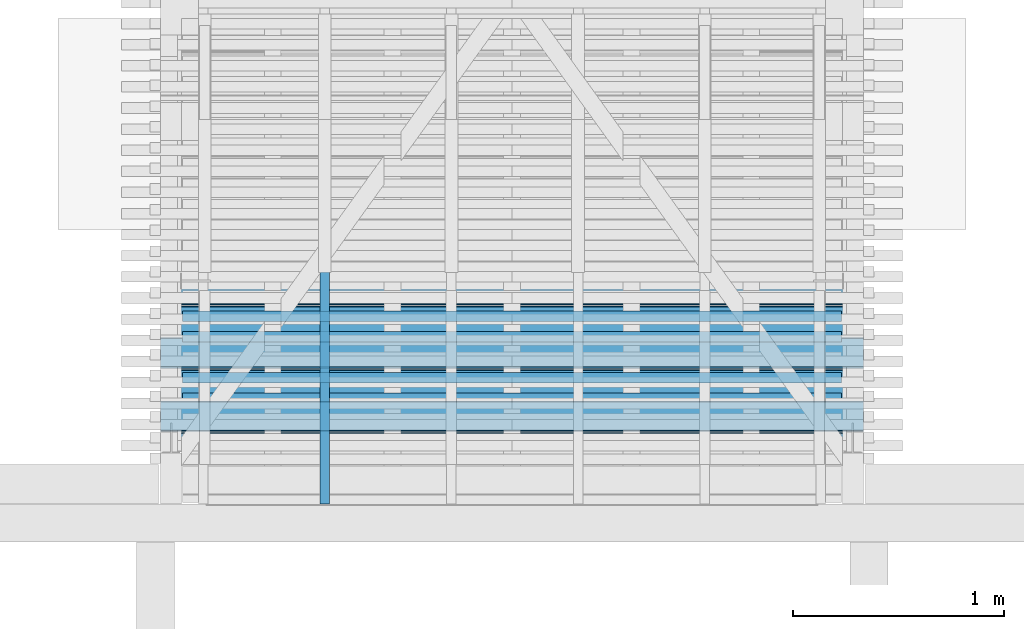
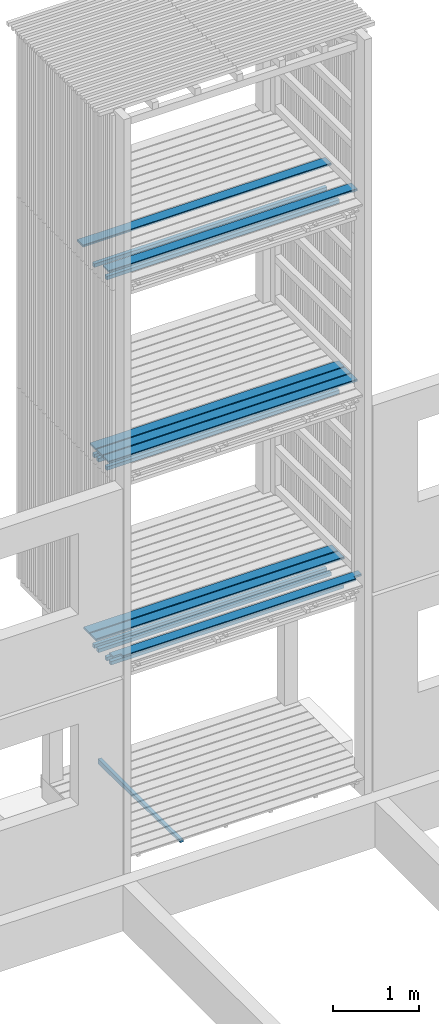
# One storey, part 36 of 182: 18 beams.
"""IFC2X3 building model written with IfcOpenShell, lengths in metres."""

from ifc_helpers import new_model, si_unit, frame, origin, place, context, project, spatial, faceted_brep, element, save


model = new_model("IFC2X3")

# Units and contexts
model_context = context("Model", 3, precision=1e-06, world=origin())
ifc_project = project(units=[si_unit("LENGTHUNIT", "METRE"), si_unit("PLANEANGLEUNIT", "RADIAN")], contexts=[model_context])

# Site, building, storey
site = spatial("IfcSite", under=ifc_project, CompositionType="ELEMENT")
building = spatial("IfcBuilding", under=site, CompositionType="ELEMENT")
storey = spatial("IfcBuildingStorey", under=building, Name="vs", CompositionType="ELEMENT", Elevation=-0.85)

# Beams
placement = place(None, origin())
beam_1_placement = place(placement, frame((16.654197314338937, 10.734577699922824, 2.733499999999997), z_axis=(0.0, 0.0, 1.0), x_axis=(-1.0, 0.0, 0.0)))
element("IfcBeam", 1, at=beam_1_placement, inside=storey, Name="Caillebotis", context=model_context, shape_type="Brep", body=[
    faceted_brep([(0.0, -0.072499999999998, -0.0135), (0.0, -0.072499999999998, 0.008500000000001), (0.0, -0.067499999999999, 0.0135), (0.0, 0.019500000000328, 0.0135), (0.0, 0.019500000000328, -0.0135), (3.329999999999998, -0.067499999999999, 0.0135), (3.329999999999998, 0.019500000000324, 0.0135), (3.225000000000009, 0.019500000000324, 0.0135), (3.225000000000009, 0.067500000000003, 0.0135), (0.105000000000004, 0.067500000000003, 0.0135), (0.105000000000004, 0.019500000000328, 0.0135), (0.0, 0.019500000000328, 0.0135), (0.0, -0.067499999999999, 0.0135), (0.105000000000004, 0.019500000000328, 0.0135), (0.105000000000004, 0.067500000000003, 0.0135), (0.105000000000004, 0.072500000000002, 0.0085), (0.105000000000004, 0.072500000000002, -0.0135), (0.105000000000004, 0.019500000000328, -0.0135), (0.105000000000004, 0.072500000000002, 0.0085), (0.105000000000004, 0.067500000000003, 0.0135), (3.225000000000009, 0.067500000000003, 0.0135), (3.225000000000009, 0.072500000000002, 0.0085), (0.105000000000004, 0.072500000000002, -0.0135), (0.105000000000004, 0.072500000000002, 0.0085), (3.225000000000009, 0.072500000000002, 0.0085), (3.225000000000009, 0.072500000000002, -0.0135), (3.225000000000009, 0.072500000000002, -0.0135), (3.225000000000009, 0.072500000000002, 0.0085), (3.225000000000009, 0.067500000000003, 0.0135), (3.225000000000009, 0.019500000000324, 0.0135), (3.225000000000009, 0.019500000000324, -0.0135), (3.225000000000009, 0.019500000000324, -0.0135), (3.225000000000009, 0.019500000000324, 0.0135), (3.329999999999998, 0.019500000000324, 0.0135), (3.329999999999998, 0.019500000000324, -0.0135), (3.329999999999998, -0.072499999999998, 0.008500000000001), (3.329999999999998, -0.072499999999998, -0.0135), (3.329999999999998, 0.019500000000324, -0.0135), (3.329999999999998, 0.019500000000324, 0.0135), (3.329999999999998, -0.067499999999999, 0.0135), (3.329999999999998, -0.072499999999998, 0.008500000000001), (3.329999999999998, -0.067499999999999, 0.0135), (0.0, -0.067499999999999, 0.0135), (0.0, -0.072499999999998, 0.008500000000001), (3.329999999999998, -0.072499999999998, -0.0135), (3.329999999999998, -0.072499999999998, 0.008500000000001), (0.0, -0.072499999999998, 0.008500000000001), (0.0, -0.072499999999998, -0.0135), (0.105000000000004, 0.019500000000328, -0.0135), (0.105000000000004, 0.072500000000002, -0.0135), (3.225000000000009, 0.072500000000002, -0.0135), (3.225000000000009, 0.019500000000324, -0.0135), (3.329999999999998, 0.019500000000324, -0.0135), (3.329999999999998, -0.072499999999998, -0.0135), (0.0, -0.072499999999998, -0.0135), (0.0, 0.019500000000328, -0.0135), (0.0, 0.019500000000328, 0.0135), (0.105000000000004, 0.019500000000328, 0.0135), (0.105000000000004, 0.019500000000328, -0.0135), (0.0, 0.019500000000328, -0.0135)], [[[0, 1, 2, 3, 4]], [[5, 6, 7, 8, 9, 10, 11, 12]], [[13, 14, 15, 16, 17]], [[18, 19, 20, 21]], [[22, 23, 24, 25]], [[26, 27, 28, 29, 30]], [[31, 32, 33, 34]], [[35, 36, 37, 38, 39]], [[40, 41, 42, 43]], [[44, 45, 46, 47]], [[48, 49, 50, 51, 52, 53, 54, 55]], [[56, 57, 58, 59]]]),
])
beam_2_placement = place(placement, frame((16.654197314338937, 11.484577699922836, 8.13349999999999), z_axis=(0.0, 0.0, 1.0), x_axis=(-1.0, -8e-15, 0.0)))
element("IfcBeam", 2, at=beam_2_placement, inside=storey, Name="Caillebotis", context=model_context, shape_type="Brep", body=[
    faceted_brep([(3.329999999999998, -0.072500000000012, -0.013500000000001), (3.329999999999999, 0.072499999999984, -0.013500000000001), (3.329999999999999, 0.072499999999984, 0.008499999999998), (3.329999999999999, 0.067499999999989, 0.013499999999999), (3.329999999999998, -0.067500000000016, 0.013499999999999), (3.329999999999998, -0.072500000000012, 0.0085), (-1e-15, -0.072499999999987, 0.0085), (-1e-15, -0.067499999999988, 0.013499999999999), (1e-15, 0.067500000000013, 0.013499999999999), (1e-15, 0.072500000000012, 0.008499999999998), (1e-15, 0.072500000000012, -0.013500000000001), (-1e-15, -0.072499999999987, -0.013500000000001), (3.329999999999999, 0.072499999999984, 0.008499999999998), (3.329999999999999, 0.072499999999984, -0.013500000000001), (1e-15, 0.072500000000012, -0.013500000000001), (1e-15, 0.072500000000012, 0.008499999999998), (3.329999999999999, 0.067499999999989, 0.013499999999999), (3.329999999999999, 0.072499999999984, 0.008499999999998), (1e-15, 0.072500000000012, 0.008499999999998), (1e-15, 0.067500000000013, 0.013499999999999), (3.329999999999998, -0.067500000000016, 0.013499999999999), (3.329999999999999, 0.067499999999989, 0.013499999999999), (1e-15, 0.067500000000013, 0.013499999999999), (-1e-15, -0.067499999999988, 0.013499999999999), (3.329999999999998, -0.072500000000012, 0.0085), (3.329999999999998, -0.067500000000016, 0.013499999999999), (-1e-15, -0.067499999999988, 0.013499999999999), (-1e-15, -0.072499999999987, 0.0085), (3.329999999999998, -0.072500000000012, -0.013500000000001), (3.329999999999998, -0.072500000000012, 0.0085), (-1e-15, -0.072499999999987, 0.0085), (-1e-15, -0.072499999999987, -0.013500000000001), (1e-15, 0.072500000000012, -0.013500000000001), (3.329999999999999, 0.072499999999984, -0.013500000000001), (3.329999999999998, -0.072500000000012, -0.013500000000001), (-1e-15, -0.072499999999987, -0.013500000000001)], [[[0, 1, 2, 3, 4, 5]], [[6, 7, 8, 9, 10, 11]], [[12, 13, 14, 15]], [[16, 17, 18, 19]], [[20, 21, 22, 23]], [[24, 25, 26, 27]], [[28, 29, 30, 31]], [[32, 33, 34, 35]]]),
])
beam_3_placement = place(placement, frame((14.102197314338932, 10.4700776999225, -0.015599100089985), z_axis=(0.0, 0.0, 1.0), x_axis=(0.0, 1.0, 0.0)))
element("IfcBeam", 3, at=beam_3_placement, inside=storey, Name="Calage", context=model_context, shape_type="Brep", body=[
    faceted_brep([(0.0, 0.022499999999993, 0.002600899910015), (1.91000000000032, 0.022499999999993, -0.035599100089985), (1.91000000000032, -0.022500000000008, -0.035599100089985), (0.0, -0.022500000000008, 0.002600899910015), (0.0, -0.022500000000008, 0.035599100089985), (0.0, 0.022499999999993, 0.035599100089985), (0.0, 0.022499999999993, 0.002600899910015), (0.0, -0.022500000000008, 0.002600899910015), (0.0, 0.022499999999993, 0.035599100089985), (0.0, -0.022500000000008, 0.035599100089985), (1.91000000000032, -0.022500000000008, 0.035599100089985), (1.91000000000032, 0.022499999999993, 0.035599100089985), (0.0, 0.022499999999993, 0.002600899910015), (0.0, 0.022499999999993, 0.035599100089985), (1.91000000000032, 0.022499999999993, 0.035599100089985), (1.91000000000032, 0.022499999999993, -0.035599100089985), (1.91000000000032, 0.022499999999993, -0.035599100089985), (1.91000000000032, 0.022499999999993, 0.035599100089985), (1.91000000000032, -0.022500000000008, 0.035599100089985), (1.91000000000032, -0.022500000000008, -0.035599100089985), (1.91000000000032, -0.022500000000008, -0.035599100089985), (1.91000000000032, -0.022500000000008, 0.035599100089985), (0.0, -0.022500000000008, 0.035599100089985), (0.0, -0.022500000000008, 0.002600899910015)], [[[0, 1, 2, 3]], [[4, 5, 6, 7]], [[8, 9, 10, 11]], [[12, 13, 14, 15]], [[16, 17, 18, 19]], [[20, 21, 22, 23]]]),
])
beam_4_placement = place(placement, frame((16.549197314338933, 11.261327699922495, 5.167999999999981), z_axis=(0.0, 0.0, 1.0), x_axis=(-1.0, 0.0, 0.0)))
element("IfcBeam", 4, at=beam_4_placement, inside=storey, Name="Bardage", context=model_context, shape_type="Brep", body=[
    faceted_brep([(3.120000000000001, 0.024999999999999, -0.025), (3.120000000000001, -0.024999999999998, -0.025), (-3e-15, -0.025000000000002, -0.025), (-3e-15, 0.024999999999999, -0.025), (-3e-15, -0.025000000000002, -0.025), (3.120000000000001, -0.024999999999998, -0.025), (3.120000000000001, -0.024999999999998, 0.025000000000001), (-3e-15, -0.025000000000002, 0.025000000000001), (3.120000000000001, -0.024999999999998, -0.025), (3.120000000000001, 0.024999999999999, -0.025), (3.120000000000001, 0.024999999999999, 0.025000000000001), (3.120000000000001, -0.024999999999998, 0.025000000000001), (3.120000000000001, 0.024999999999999, 0.025000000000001), (3.120000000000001, 0.024999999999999, -0.025), (-3e-15, 0.024999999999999, -0.025), (-3e-15, 0.024999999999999, 0.025000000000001), (-3e-15, -0.025000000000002, 0.025000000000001), (3.120000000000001, -0.024999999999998, 0.025000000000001), (3.120000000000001, 0.024999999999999, 0.025000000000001), (-3e-15, 0.024999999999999, 0.025000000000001), (-3e-15, -0.025000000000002, -0.025), (-3e-15, -0.025000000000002, 0.025000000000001), (-3e-15, 0.024999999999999, 0.025000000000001), (-3e-15, 0.024999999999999, -0.025)], [[[0, 1, 2, 3]], [[4, 5, 6, 7]], [[8, 9, 10, 11]], [[12, 13, 14, 15]], [[16, 17, 18, 19]], [[20, 21, 22, 23]]]),
])
beam_5_placement = place(placement, frame((16.549197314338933, 11.067577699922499, 2.467999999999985), z_axis=(0.0, 0.0, 1.0), x_axis=(-1.0, -1e-15, 0.0)))
element("IfcBeam", 5, at=beam_5_placement, inside=storey, Name="Bardage", context=model_context, shape_type="Brep", body=[
    faceted_brep([(3.120000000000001, 0.025000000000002, -0.025), (3.120000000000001, -0.025000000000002, -0.025), (-3e-15, -0.024999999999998, -0.025), (-3e-15, 0.025000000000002, -0.025), (-3e-15, -0.024999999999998, -0.025), (3.120000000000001, -0.025000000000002, -0.025), (3.120000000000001, -0.025000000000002, 0.025), (-3e-15, -0.024999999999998, 0.025), (3.120000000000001, -0.025000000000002, -0.025), (3.120000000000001, 0.025000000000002, -0.025), (3.120000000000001, 0.025000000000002, 0.025), (3.120000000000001, -0.025000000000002, 0.025), (3.120000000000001, 0.025000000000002, 0.025), (3.120000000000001, 0.025000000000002, -0.025), (-3e-15, 0.025000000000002, -0.025), (-3e-15, 0.025000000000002, 0.025), (-3e-15, -0.024999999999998, 0.025), (3.120000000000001, -0.025000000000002, 0.025), (3.120000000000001, 0.025000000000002, 0.025), (-3e-15, 0.025000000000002, 0.025), (-3e-15, -0.024999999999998, -0.025), (-3e-15, -0.024999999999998, 0.025), (-3e-15, 0.025000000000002, 0.025), (-3e-15, 0.025000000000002, -0.025)], [[[0, 1, 2, 3]], [[4, 5, 6, 7]], [[8, 9, 10, 11]], [[12, 13, 14, 15]], [[16, 17, 18, 19]], [[20, 21, 22, 23]]]),
])
beam_6_placement = place(placement, frame((16.549197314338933, 11.067577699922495, 5.167999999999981), z_axis=(0.0, 0.0, 1.0), x_axis=(-1.0, 0.0, 0.0)))
element("IfcBeam", 6, at=beam_6_placement, inside=storey, Name="Bardage", context=model_context, shape_type="Brep", body=[
    faceted_brep([(3.120000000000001, 0.025000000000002, -0.025), (3.120000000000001, -0.025000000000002, -0.025), (-3e-15, -0.025000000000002, -0.025), (-3e-15, 0.024999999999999, -0.025), (-3e-15, -0.025000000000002, -0.025), (3.120000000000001, -0.025000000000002, -0.025), (3.120000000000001, -0.025000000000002, 0.025000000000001), (-3e-15, -0.025000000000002, 0.025000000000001), (3.120000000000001, -0.025000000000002, -0.025), (3.120000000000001, 0.025000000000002, -0.025), (3.120000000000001, 0.025000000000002, 0.025000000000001), (3.120000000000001, -0.025000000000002, 0.025000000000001), (3.120000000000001, 0.025000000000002, 0.025000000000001), (3.120000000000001, 0.025000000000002, -0.025), (-3e-15, 0.024999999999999, -0.025), (-3e-15, 0.024999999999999, 0.025000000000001), (-3e-15, -0.025000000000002, 0.025000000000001), (3.120000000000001, -0.025000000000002, 0.025000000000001), (3.120000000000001, 0.025000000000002, 0.025000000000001), (-3e-15, 0.024999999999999, 0.025000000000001), (-3e-15, -0.025000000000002, -0.025), (-3e-15, -0.025000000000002, 0.025000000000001), (-3e-15, 0.024999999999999, 0.025000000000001), (-3e-15, 0.024999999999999, -0.025)], [[[0, 1, 2, 3]], [[4, 5, 6, 7]], [[8, 9, 10, 11]], [[12, 13, 14, 15]], [[16, 17, 18, 19]], [[20, 21, 22, 23]]]),
])
beam_7_placement = place(placement, frame((16.549197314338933, 10.970702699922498, 2.467999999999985), z_axis=(0.0, 0.0, 1.0), x_axis=(-1.0, -1e-15, 0.0)))
element("IfcBeam", 7, at=beam_7_placement, inside=storey, Name="Bardage", context=model_context, shape_type="Brep", body=[
    faceted_brep([(3.120000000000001, 0.024999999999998, -0.025), (3.120000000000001, -0.025000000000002, -0.025), (-3e-15, -0.024999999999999, -0.025), (-3e-15, 0.025000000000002, -0.025), (-3e-15, -0.024999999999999, -0.025), (3.120000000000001, -0.025000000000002, -0.025), (3.120000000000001, -0.025000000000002, 0.025), (-3e-15, -0.024999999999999, 0.025), (3.120000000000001, -0.025000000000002, -0.025), (3.120000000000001, 0.024999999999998, -0.025), (3.120000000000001, 0.024999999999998, 0.025), (3.120000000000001, -0.025000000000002, 0.025), (3.120000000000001, 0.024999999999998, 0.025), (3.120000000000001, 0.024999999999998, -0.025), (-3e-15, 0.025000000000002, -0.025), (-3e-15, 0.025000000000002, 0.025), (-3e-15, -0.024999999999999, 0.025), (3.120000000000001, -0.025000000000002, 0.025), (3.120000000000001, 0.024999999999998, 0.025), (-3e-15, 0.025000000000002, 0.025), (-3e-15, -0.024999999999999, -0.025), (-3e-15, -0.024999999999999, 0.025), (-3e-15, 0.025000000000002, 0.025), (-3e-15, 0.025000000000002, -0.025)], [[[0, 1, 2, 3]], [[4, 5, 6, 7]], [[8, 9, 10, 11]], [[12, 13, 14, 15]], [[16, 17, 18, 19]], [[20, 21, 22, 23]]]),
])
beam_8_placement = place(placement, frame((16.549197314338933, 11.358202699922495, 7.867999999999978), z_axis=(0.0, 0.0, 1.0), x_axis=(-1.0, -1e-15, 0.0)))
element("IfcBeam", 8, at=beam_8_placement, inside=storey, Name="Bardage", context=model_context, shape_type="Brep", body=[
    faceted_brep([(3.120000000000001, 0.024999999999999, -0.025000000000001), (3.120000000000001, -0.025000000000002, -0.025000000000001), (-3e-15, -0.025000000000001, -0.025000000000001), (-3e-15, 0.025000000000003, -0.025000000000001), (-3e-15, -0.025000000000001, -0.025000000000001), (3.120000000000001, -0.025000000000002, -0.025000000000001), (3.120000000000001, -0.025000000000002, 0.024999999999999), (-3e-15, -0.025000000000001, 0.024999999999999), (3.120000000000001, -0.025000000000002, -0.025000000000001), (3.120000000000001, 0.024999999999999, -0.025000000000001), (3.120000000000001, 0.024999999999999, 0.024999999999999), (3.120000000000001, -0.025000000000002, 0.024999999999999), (3.120000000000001, 0.024999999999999, 0.024999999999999), (3.120000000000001, 0.024999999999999, -0.025000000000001), (-3e-15, 0.025000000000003, -0.025000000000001), (-3e-15, 0.025000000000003, 0.024999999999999), (-3e-15, -0.025000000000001, 0.024999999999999), (3.120000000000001, -0.025000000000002, 0.024999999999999), (3.120000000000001, 0.024999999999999, 0.024999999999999), (-3e-15, 0.025000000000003, 0.024999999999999), (-3e-15, -0.025000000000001, -0.025000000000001), (-3e-15, -0.025000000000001, 0.024999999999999), (-3e-15, 0.025000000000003, 0.024999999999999), (-3e-15, 0.025000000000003, -0.025000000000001)], [[[0, 1, 2, 3]], [[4, 5, 6, 7]], [[8, 9, 10, 11]], [[12, 13, 14, 15]], [[16, 17, 18, 19]], [[20, 21, 22, 23]]]),
])
beam_9_placement = place(placement, frame((16.549197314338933, 11.358202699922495, 5.167999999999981), z_axis=(0.0, 0.0, 1.0), x_axis=(-1.0, -1e-15, 0.0)))
element("IfcBeam", 9, at=beam_9_placement, inside=storey, Name="Bardage", context=model_context, shape_type="Brep", body=[
    faceted_brep([(3.120000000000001, 0.024999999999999, -0.025), (3.120000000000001, -0.025000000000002, -0.025), (-3e-15, -0.025000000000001, -0.025), (-3e-15, 0.025000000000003, -0.025), (-3e-15, -0.025000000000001, -0.025), (3.120000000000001, -0.025000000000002, -0.025), (3.120000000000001, -0.025000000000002, 0.025000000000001), (-3e-15, -0.025000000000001, 0.025000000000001), (3.120000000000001, -0.025000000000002, -0.025), (3.120000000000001, 0.024999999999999, -0.025), (3.120000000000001, 0.024999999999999, 0.025000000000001), (3.120000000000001, -0.025000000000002, 0.025000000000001), (3.120000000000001, 0.024999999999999, 0.025000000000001), (3.120000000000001, 0.024999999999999, -0.025), (-3e-15, 0.025000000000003, -0.025), (-3e-15, 0.025000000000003, 0.025000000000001), (-3e-15, -0.025000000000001, 0.025000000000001), (3.120000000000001, -0.025000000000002, 0.025000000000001), (3.120000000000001, 0.024999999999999, 0.025000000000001), (-3e-15, 0.025000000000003, 0.025000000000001), (-3e-15, -0.025000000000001, -0.025), (-3e-15, -0.025000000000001, 0.025000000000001), (-3e-15, 0.025000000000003, 0.025000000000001), (-3e-15, 0.025000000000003, -0.025)], [[[0, 1, 2, 3]], [[4, 5, 6, 7]], [[8, 9, 10, 11]], [[12, 13, 14, 15]], [[16, 17, 18, 19]], [[20, 21, 22, 23]]]),
])
beam_10_placement = place(placement, frame((16.549197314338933, 11.358202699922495, 2.467999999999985), z_axis=(0.0, 0.0, 1.0), x_axis=(-1.0, -1e-15, 0.0)))
element("IfcBeam", 10, at=beam_10_placement, inside=storey, Name="Bardage", context=model_context, shape_type="Brep", body=[
    faceted_brep([(3.120000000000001, 0.024999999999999, -0.025), (3.120000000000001, -0.025000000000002, -0.025), (-3e-15, -0.025000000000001, -0.025), (-3e-15, 0.025000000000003, -0.025), (-3e-15, -0.025000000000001, -0.025), (3.120000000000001, -0.025000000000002, -0.025), (3.120000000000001, -0.025000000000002, 0.025), (-3e-15, -0.025000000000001, 0.025), (3.120000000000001, -0.025000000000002, -0.025), (3.120000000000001, 0.024999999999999, -0.025), (3.120000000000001, 0.024999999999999, 0.025), (3.120000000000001, -0.025000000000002, 0.025), (3.120000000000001, 0.024999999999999, 0.025), (3.120000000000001, 0.024999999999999, -0.025), (-3e-15, 0.025000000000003, -0.025), (-3e-15, 0.025000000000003, 0.025), (-3e-15, -0.025000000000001, 0.025), (3.120000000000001, -0.025000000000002, 0.025), (3.120000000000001, 0.024999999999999, 0.025), (-3e-15, 0.025000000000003, 0.025), (-3e-15, -0.025000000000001, -0.025), (-3e-15, -0.025000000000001, 0.025), (-3e-15, 0.025000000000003, 0.025), (-3e-15, 0.025000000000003, -0.025)], [[[0, 1, 2, 3]], [[4, 5, 6, 7]], [[8, 9, 10, 11]], [[12, 13, 14, 15]], [[16, 17, 18, 19]], [[20, 21, 22, 23]]]),
])
beam_11_placement = place(placement, frame((16.549197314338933, 11.261327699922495, 2.467999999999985), z_axis=(0.0, 0.0, 1.0), x_axis=(-1.0, 0.0, 0.0)))
element("IfcBeam", 11, at=beam_11_placement, inside=storey, Name="Bardage", context=model_context, shape_type="Brep", body=[
    faceted_brep([(3.120000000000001, 0.024999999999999, -0.025), (3.120000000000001, -0.024999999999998, -0.025), (-3e-15, -0.025000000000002, -0.025), (-3e-15, 0.024999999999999, -0.025), (-3e-15, -0.025000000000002, -0.025), (3.120000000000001, -0.024999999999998, -0.025), (3.120000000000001, -0.024999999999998, 0.025), (-3e-15, -0.025000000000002, 0.025), (3.120000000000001, -0.024999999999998, -0.025), (3.120000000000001, 0.024999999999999, -0.025), (3.120000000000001, 0.024999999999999, 0.025), (3.120000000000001, -0.024999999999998, 0.025), (3.120000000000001, 0.024999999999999, 0.025), (3.120000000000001, 0.024999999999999, -0.025), (-3e-15, 0.024999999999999, -0.025), (-3e-15, 0.024999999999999, 0.025), (-3e-15, -0.025000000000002, 0.025), (3.120000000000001, -0.024999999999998, 0.025), (3.120000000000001, 0.024999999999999, 0.025), (-3e-15, 0.024999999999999, 0.025), (-3e-15, -0.025000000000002, -0.025), (-3e-15, -0.025000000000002, 0.025), (-3e-15, 0.024999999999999, 0.025), (-3e-15, 0.024999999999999, -0.025)], [[[0, 1, 2, 3]], [[4, 5, 6, 7]], [[8, 9, 10, 11]], [[12, 13, 14, 15]], [[16, 17, 18, 19]], [[20, 21, 22, 23]]]),
])
beam_12_placement = place(placement, frame((16.654197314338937, 11.034577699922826, 5.433499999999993), z_axis=(0.0, 0.0, 1.0), x_axis=(-1.0, -1e-15, 0.0)))
element("IfcBeam", 12, at=beam_12_placement, inside=storey, Name="Caillebotis", context=model_context, shape_type="Brep", body=[
    faceted_brep([(3.329999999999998, -0.072500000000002, -0.0135), (3.329999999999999, 0.072500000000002, -0.0135), (3.329999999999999, 0.072500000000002, 0.0085), (3.329999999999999, 0.067499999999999, 0.0135), (3.329999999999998, -0.067499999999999, 0.0135), (3.329999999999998, -0.072500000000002, 0.008500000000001), (0.0, -0.072499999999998, 0.008500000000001), (0.0, -0.067499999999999, 0.0135), (0.0, 0.067500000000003, 0.0135), (0.0, 0.072500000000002, 0.0085), (0.0, 0.072500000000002, -0.0135), (0.0, -0.072499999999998, -0.0135), (3.329999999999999, 0.072500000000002, 0.0085), (3.329999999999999, 0.072500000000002, -0.0135), (0.0, 0.072500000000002, -0.0135), (0.0, 0.072500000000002, 0.0085), (3.329999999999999, 0.067499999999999, 0.0135), (3.329999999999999, 0.072500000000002, 0.0085), (0.0, 0.072500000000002, 0.0085), (0.0, 0.067500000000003, 0.0135), (3.329999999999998, -0.067499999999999, 0.0135), (3.329999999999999, 0.067499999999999, 0.0135), (0.0, 0.067500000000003, 0.0135), (0.0, -0.067499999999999, 0.0135), (3.329999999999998, -0.072500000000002, 0.008500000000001), (3.329999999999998, -0.067499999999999, 0.0135), (0.0, -0.067499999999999, 0.0135), (0.0, -0.072499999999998, 0.008500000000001), (3.329999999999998, -0.072500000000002, -0.0135), (3.329999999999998, -0.072500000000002, 0.008500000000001), (0.0, -0.072499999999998, 0.008500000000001), (0.0, -0.072499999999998, -0.0135), (0.0, 0.072500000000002, -0.0135), (3.329999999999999, 0.072500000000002, -0.0135), (3.329999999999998, -0.072500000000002, -0.0135), (0.0, -0.072499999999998, -0.0135)], [[[0, 1, 2, 3, 4, 5]], [[6, 7, 8, 9, 10, 11]], [[12, 13, 14, 15]], [[16, 17, 18, 19]], [[20, 21, 22, 23]], [[24, 25, 26, 27]], [[28, 29, 30, 31]], [[32, 33, 34, 35]]]),
])
beam_13_placement = place(placement, frame((16.654197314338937, 11.334577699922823, 2.733499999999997), z_axis=(0.0, 0.0, 1.0), x_axis=(-1.0, 0.0, 0.0)))
element("IfcBeam", 13, at=beam_13_placement, inside=storey, Name="Caillebotis", context=model_context, shape_type="Brep", body=[
    faceted_brep([(3.329999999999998, -0.072499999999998, -0.0135), (3.329999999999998, 0.072500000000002, -0.0135), (3.329999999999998, 0.072500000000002, 0.0085), (3.329999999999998, 0.067500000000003, 0.0135), (3.329999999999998, -0.067500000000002, 0.0135), (3.329999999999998, -0.072499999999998, 0.008500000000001), (0.0, -0.072499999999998, 0.008500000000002), (0.0, -0.067500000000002, 0.0135), (0.0, 0.067499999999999, 0.013500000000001), (0.0, 0.072499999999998, 0.0085), (0.0, 0.072499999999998, -0.0135), (0.0, -0.072499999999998, -0.0135), (3.329999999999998, 0.072500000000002, 0.0085), (3.329999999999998, 0.072500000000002, -0.0135), (0.0, 0.072499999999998, -0.0135), (0.0, 0.072499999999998, 0.0085), (3.329999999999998, 0.067500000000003, 0.0135), (3.329999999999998, 0.072500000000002, 0.0085), (0.0, 0.072499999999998, 0.0085), (0.0, 0.067499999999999, 0.013500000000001), (3.329999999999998, -0.067500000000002, 0.0135), (3.329999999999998, 0.067500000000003, 0.0135), (0.0, 0.067499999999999, 0.013500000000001), (0.0, -0.067500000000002, 0.0135), (3.329999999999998, -0.072499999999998, 0.008500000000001), (3.329999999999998, -0.067500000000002, 0.0135), (0.0, -0.067500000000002, 0.0135), (0.0, -0.072499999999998, 0.008500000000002), (3.329999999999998, -0.072499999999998, -0.0135), (3.329999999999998, -0.072499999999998, 0.008500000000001), (0.0, -0.072499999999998, 0.008500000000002), (0.0, -0.072499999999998, -0.0135), (0.0, 0.072499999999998, -0.0135), (3.329999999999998, 0.072500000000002, -0.0135), (3.329999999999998, -0.072499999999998, -0.0135), (0.0, -0.072499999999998, -0.0135)], [[[0, 1, 2, 3, 4, 5]], [[6, 7, 8, 9, 10, 11]], [[12, 13, 14, 15]], [[16, 17, 18, 19]], [[20, 21, 22, 23]], [[24, 25, 26, 27]], [[28, 29, 30, 31]], [[32, 33, 34, 35]]]),
])
beam_14_placement = place(placement, frame((16.654197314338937, 11.184577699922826, 5.433499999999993), z_axis=(0.0, 0.0, 1.0), x_axis=(-1.0, 0.0, 0.0)))
element("IfcBeam", 14, at=beam_14_placement, inside=storey, Name="Caillebotis", context=model_context, shape_type="Brep", body=[
    faceted_brep([(3.329999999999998, -0.072499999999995, -0.0135), (3.329999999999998, 0.072500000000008, -0.0135), (3.329999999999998, 0.072500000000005, 0.0085), (3.329999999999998, 0.067500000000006, 0.0135), (3.329999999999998, -0.067499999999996, 0.0135), (3.329999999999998, -0.072499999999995, 0.008500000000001), (0.0, -0.072499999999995, 0.008500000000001), (0.0, -0.067499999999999, 0.0135), (0.0, 0.067500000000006, 0.0135), (0.0, 0.072500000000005, 0.0085), (0.0, 0.072500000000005, -0.0135), (0.0, -0.072499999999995, -0.0135), (3.329999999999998, 0.072500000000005, 0.0085), (3.329999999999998, 0.072500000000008, -0.0135), (0.0, 0.072500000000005, -0.0135), (0.0, 0.072500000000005, 0.0085), (3.329999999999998, 0.067500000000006, 0.0135), (3.329999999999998, 0.072500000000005, 0.0085), (0.0, 0.072500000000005, 0.0085), (0.0, 0.067500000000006, 0.0135), (3.329999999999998, -0.067499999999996, 0.0135), (3.329999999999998, 0.067500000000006, 0.0135), (0.0, 0.067500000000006, 0.0135), (0.0, -0.067499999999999, 0.0135), (3.329999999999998, -0.072499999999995, 0.008500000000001), (3.329999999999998, -0.067499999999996, 0.0135), (0.0, -0.067499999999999, 0.0135), (0.0, -0.072499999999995, 0.008500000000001), (3.329999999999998, -0.072499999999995, -0.0135), (3.329999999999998, -0.072499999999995, 0.008500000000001), (0.0, -0.072499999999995, 0.008500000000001), (0.0, -0.072499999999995, -0.0135), (0.0, 0.072500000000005, -0.0135), (3.329999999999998, 0.072500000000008, -0.0135), (3.329999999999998, -0.072499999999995, -0.0135), (0.0, -0.072499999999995, -0.0135)], [[[0, 1, 2, 3, 4, 5]], [[6, 7, 8, 9, 10, 11]], [[12, 13, 14, 15]], [[16, 17, 18, 19]], [[20, 21, 22, 23]], [[24, 25, 26, 27]], [[28, 29, 30, 31]], [[32, 33, 34, 35]]]),
])
beam_15_placement = place(placement, frame((16.654197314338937, 11.184577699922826, 2.733499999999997), z_axis=(0.0, 0.0, 1.0), x_axis=(-1.0, 0.0, 0.0)))
element("IfcBeam", 15, at=beam_15_placement, inside=storey, Name="Caillebotis", context=model_context, shape_type="Brep", body=[
    faceted_brep([(3.329999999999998, -0.072499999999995, -0.0135), (3.329999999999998, 0.072500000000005, -0.0135), (3.329999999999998, 0.072500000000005, 0.0085), (3.329999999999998, 0.067500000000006, 0.0135), (3.329999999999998, -0.067499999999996, 0.0135), (3.329999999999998, -0.072499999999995, 0.008500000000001), (0.0, -0.072499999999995, 0.008500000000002), (0.0, -0.067499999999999, 0.0135), (0.0, 0.067500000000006, 0.0135), (0.0, 0.072500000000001, 0.0085), (0.0, 0.072500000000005, -0.0135), (0.0, -0.072499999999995, -0.0135), (3.329999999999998, 0.072500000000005, 0.0085), (3.329999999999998, 0.072500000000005, -0.0135), (0.0, 0.072500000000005, -0.0135), (0.0, 0.072500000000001, 0.0085), (3.329999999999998, 0.067500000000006, 0.0135), (3.329999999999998, 0.072500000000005, 0.0085), (0.0, 0.072500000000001, 0.0085), (0.0, 0.067500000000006, 0.0135), (3.329999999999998, -0.067499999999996, 0.0135), (3.329999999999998, 0.067500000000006, 0.0135), (0.0, 0.067500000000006, 0.0135), (0.0, -0.067499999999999, 0.0135), (3.329999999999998, -0.072499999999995, 0.008500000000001), (3.329999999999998, -0.067499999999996, 0.0135), (0.0, -0.067499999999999, 0.0135), (0.0, -0.072499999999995, 0.008500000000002), (3.329999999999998, -0.072499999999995, -0.0135), (3.329999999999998, -0.072499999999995, 0.008500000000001), (0.0, -0.072499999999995, 0.008500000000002), (0.0, -0.072499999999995, -0.0135), (0.0, 0.072500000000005, -0.0135), (3.329999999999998, 0.072500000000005, -0.0135), (3.329999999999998, -0.072499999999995, -0.0135), (0.0, -0.072499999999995, -0.0135)], [[[0, 1, 2, 3, 4, 5]], [[6, 7, 8, 9, 10, 11]], [[12, 13, 14, 15]], [[16, 17, 18, 19]], [[20, 21, 22, 23]], [[24, 25, 26, 27]], [[28, 29, 30, 31]], [[32, 33, 34, 35]]]),
])
beam_16_placement = place(placement, frame((16.654197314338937, 10.884577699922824, 8.13349999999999), z_axis=(0.0, 0.0, 1.0), x_axis=(-1.0, -2e-15, 0.0)))
element("IfcBeam", 16, at=beam_16_placement, inside=storey, Name="Caillebotis", context=model_context, shape_type="Brep", body=[
    faceted_brep([(3.329999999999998, -0.072500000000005, -0.013500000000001), (3.329999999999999, 0.072499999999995, -0.013500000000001), (3.329999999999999, 0.072499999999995, 0.008499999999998), (3.329999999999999, 0.067499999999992, 0.013499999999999), (3.329999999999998, -0.067500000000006, 0.013499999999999), (3.329999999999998, -0.072500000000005, 0.0085), (0.0, -0.072500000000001, 0.0085), (0.0, -0.067499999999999, 0.013499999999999), (0.0, 0.067500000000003, 0.013499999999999), (0.0, 0.072500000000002, 0.008499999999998), (0.0, 0.072500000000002, -0.013500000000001), (0.0, -0.072500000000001, -0.013500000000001), (3.329999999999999, 0.072499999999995, 0.008499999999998), (3.329999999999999, 0.072499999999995, -0.013500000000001), (0.0, 0.072500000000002, -0.013500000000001), (0.0, 0.072500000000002, 0.008499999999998), (3.329999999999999, 0.067499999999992, 0.013499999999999), (3.329999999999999, 0.072499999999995, 0.008499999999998), (0.0, 0.072500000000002, 0.008499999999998), (0.0, 0.067500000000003, 0.013499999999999), (3.329999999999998, -0.067500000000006, 0.013499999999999), (3.329999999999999, 0.067499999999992, 0.013499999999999), (0.0, 0.067500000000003, 0.013499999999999), (0.0, -0.067499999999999, 0.013499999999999), (3.329999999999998, -0.072500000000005, 0.0085), (3.329999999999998, -0.067500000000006, 0.013499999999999), (0.0, -0.067499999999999, 0.013499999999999), (0.0, -0.072500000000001, 0.0085), (3.329999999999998, -0.072500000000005, -0.013500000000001), (3.329999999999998, -0.072500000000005, 0.0085), (0.0, -0.072500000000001, 0.0085), (0.0, -0.072500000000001, -0.013500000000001), (0.0, 0.072500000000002, -0.013500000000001), (3.329999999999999, 0.072499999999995, -0.013500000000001), (3.329999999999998, -0.072500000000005, -0.013500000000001), (0.0, -0.072500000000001, -0.013500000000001)], [[[0, 1, 2, 3, 4, 5]], [[6, 7, 8, 9, 10, 11]], [[12, 13, 14, 15]], [[16, 17, 18, 19]], [[20, 21, 22, 23]], [[24, 25, 26, 27]], [[28, 29, 30, 31]], [[32, 33, 34, 35]]]),
])
beam_17_placement = place(placement, frame((16.654197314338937, 10.884577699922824, 5.433499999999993), z_axis=(0.0, 0.0, 1.0), x_axis=(-1.0, -2e-15, 0.0)))
element("IfcBeam", 17, at=beam_17_placement, inside=storey, Name="Caillebotis", context=model_context, shape_type="Brep", body=[
    faceted_brep([(3.329999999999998, -0.072500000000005, -0.0135), (3.329999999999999, 0.072499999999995, -0.0135), (3.329999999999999, 0.072499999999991, 0.0085), (3.329999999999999, 0.067499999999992, 0.0135), (3.329999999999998, -0.067500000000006, 0.0135), (3.329999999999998, -0.072500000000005, 0.008500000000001), (0.0, -0.072500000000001, 0.008500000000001), (0.0, -0.067499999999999, 0.0135), (0.0, 0.067500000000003, 0.0135), (0.0, 0.072500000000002, 0.0085), (0.0, 0.072500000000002, -0.0135), (0.0, -0.072500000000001, -0.0135), (3.329999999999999, 0.072499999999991, 0.0085), (3.329999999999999, 0.072499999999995, -0.0135), (0.0, 0.072500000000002, -0.0135), (0.0, 0.072500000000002, 0.0085), (3.329999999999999, 0.067499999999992, 0.0135), (3.329999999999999, 0.072499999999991, 0.0085), (0.0, 0.072500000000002, 0.0085), (0.0, 0.067500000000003, 0.0135), (3.329999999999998, -0.067500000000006, 0.0135), (3.329999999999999, 0.067499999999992, 0.0135), (0.0, 0.067500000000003, 0.0135), (0.0, -0.067499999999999, 0.0135), (3.329999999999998, -0.072500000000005, 0.008500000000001), (3.329999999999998, -0.067500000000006, 0.0135), (0.0, -0.067499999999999, 0.0135), (0.0, -0.072500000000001, 0.008500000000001), (3.329999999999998, -0.072500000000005, -0.0135), (3.329999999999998, -0.072500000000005, 0.008500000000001), (0.0, -0.072500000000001, 0.008500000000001), (0.0, -0.072500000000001, -0.0135), (0.0, 0.072500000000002, -0.0135), (3.329999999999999, 0.072499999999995, -0.0135), (3.329999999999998, -0.072500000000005, -0.0135), (0.0, -0.072500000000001, -0.0135)], [[[0, 1, 2, 3, 4, 5]], [[6, 7, 8, 9, 10, 11]], [[12, 13, 14, 15]], [[16, 17, 18, 19]], [[20, 21, 22, 23]], [[24, 25, 26, 27]], [[28, 29, 30, 31]], [[32, 33, 34, 35]]]),
])
beam_18_placement = place(placement, frame((16.549197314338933, 11.067577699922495, 7.867999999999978), z_axis=(0.0, 0.0, 1.0), x_axis=(-1.0, 0.0, 0.0)))
element("IfcBeam", 18, at=beam_18_placement, inside=storey, Name="Bardage", context=model_context, shape_type="Brep", body=[
    faceted_brep([(3.120000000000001, 0.025000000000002, -0.025000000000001), (3.120000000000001, -0.025000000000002, -0.025000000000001), (-3e-15, -0.025000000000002, -0.025000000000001), (-3e-15, 0.024999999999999, -0.025000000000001), (-3e-15, -0.025000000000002, -0.025000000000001), (3.120000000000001, -0.025000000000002, -0.025000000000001), (3.120000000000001, -0.025000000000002, 0.024999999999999), (-3e-15, -0.025000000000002, 0.024999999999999), (3.120000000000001, -0.025000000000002, -0.025000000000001), (3.120000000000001, 0.025000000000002, -0.025000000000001), (3.120000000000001, 0.025000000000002, 0.024999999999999), (3.120000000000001, -0.025000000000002, 0.024999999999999), (3.120000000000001, 0.025000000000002, 0.024999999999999), (3.120000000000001, 0.025000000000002, -0.025000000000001), (-3e-15, 0.024999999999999, -0.025000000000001), (-3e-15, 0.024999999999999, 0.024999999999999), (-3e-15, -0.025000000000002, 0.024999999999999), (3.120000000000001, -0.025000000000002, 0.024999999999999), (3.120000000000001, 0.025000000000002, 0.024999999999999), (-3e-15, 0.024999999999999, 0.024999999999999), (-3e-15, -0.025000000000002, -0.025000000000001), (-3e-15, -0.025000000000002, 0.024999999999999), (-3e-15, 0.024999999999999, 0.024999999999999), (-3e-15, 0.024999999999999, -0.025000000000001)], [[[0, 1, 2, 3]], [[4, 5, 6, 7]], [[8, 9, 10, 11]], [[12, 13, 14, 15]], [[16, 17, 18, 19]], [[20, 21, 22, 23]]]),
])

save(model, "model.ifc")
